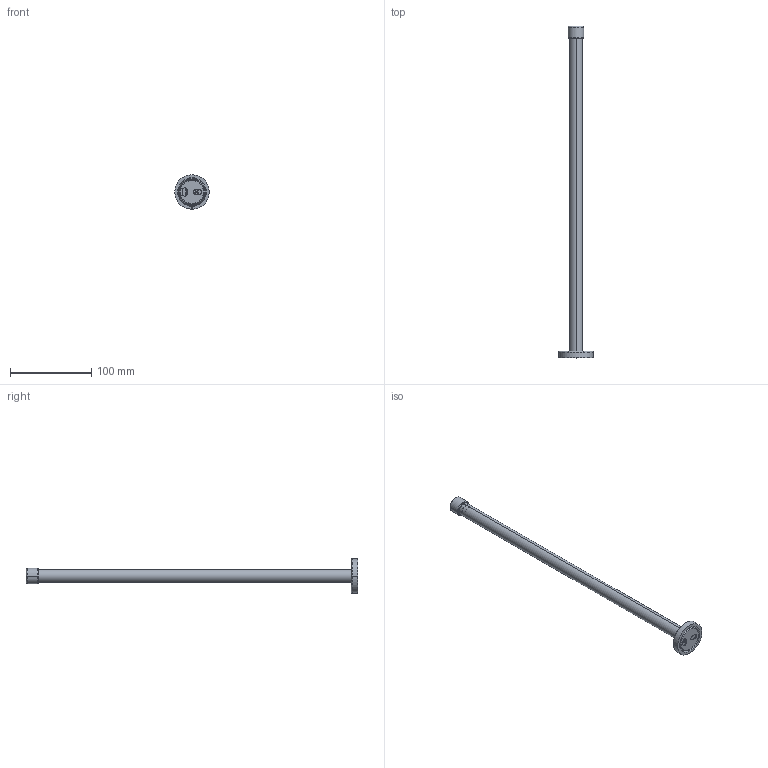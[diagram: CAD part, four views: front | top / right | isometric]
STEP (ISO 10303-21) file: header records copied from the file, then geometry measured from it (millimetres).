
FILE_DESCRIPTION((''),'2;1');
FILE_NAME('48341--00_SUB01_ASM','2026-10-14T10:13:06',('simi1'),(''),'CREO PARAMETRIC BY PTC INC, 2022244','CREO PARAMETRIC BY PTC INC, 2022244','');
FILE_SCHEMA(('CONFIG_CONTROL_DESIGN'));
Length unit declared in the file: millimetre
Products named in the file (10): 4634400; 4634600; 7983885; 46345--_ASM; 46342--; 4670700; 46388--_ASM; 4634300; 4658200; 48341--00_SUB01_ASM
Assembly tree (9 placements, depth 4):
  48341--00_SUB01_ASM
    46388--_ASM
      46345--_ASM
        4634400
        4634600
        7983885
      46342--
      4670700
    4634300
    4658200
Bounding box: 42.3 x 408 x 42.3 mm (x, y, z)
Volume: 28281.9 mm3; surface area: 47778.2 mm2
Topology: 7 solids, 8 shells, 171 faces, 401 edges, 248 vertices
Faces by surface type: cylinder 56, cone 44, plane 37, torus 16, bspline 16, sphere 2
Entity records: 10013 total; most frequent: CARTESIAN_POINT 5944, DIRECTION 835, ORIENTED_EDGE 786, EDGE_CURVE 395, AXIS2_PLACEMENT_3D 346, VERTEX_POINT 248, EDGE_LOOP 193, FACE_OUTER_BOUND 171
